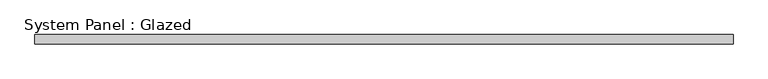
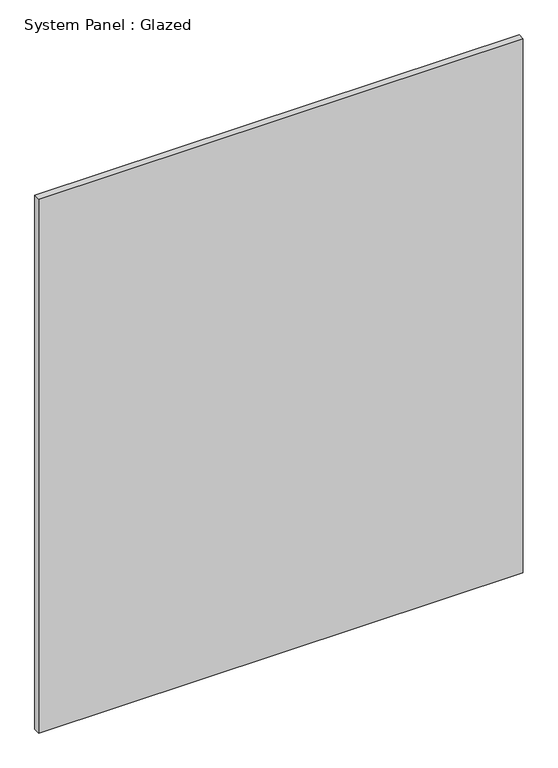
"""IFC4 building model written with IfcOpenShell, lengths in millimetres: plate geometry, System Panel : Glazed."""

from ifc_helpers import new_model, si_unit, origin, origin_with_axes, place, context, project, spatial, polyline, outline, extrude, source, transform, mapped, element, save


def system_panel_glazed_6c3e4c3c(model_context):
    return source(origin(), model_context, "Body", "SweptSolid", [
        extrude(outline(polyline([(955.0, -49.5), (-955.0, -49.5), (-955.0, -24.5), (955.0, -24.5), (955.0, -49.5)])), origin_with_axes(), (0.0, 0.0, 1.0), 2225.0),
    ])


if __name__ == "__main__":
    model = new_model("IFC4")
    model_context = context("Model", 3, world=origin())
    ifc_project = project(units=[si_unit("LENGTHUNIT", "METRE", prefix="MILLI")], contexts=[model_context])
    site = spatial("IfcSite", under=ifc_project)
    building = spatial("IfcBuilding", under=site)
    placement = place(None, origin())
    system_panel_glazed_shape = system_panel_glazed_6c3e4c3c(model_context)
    element("IfcPlate", 1, ObjectType="System Panel : Glazed", at=placement, inside=building, context=model_context, shape_type="MappedRepresentation", body=[
        mapped(system_panel_glazed_shape, transform((0.0, 0.0, 0.0), x_axis=(1.0, 0.0, 0.0), y_axis=(0.0, 1.0, 0.0), z_axis=(0.0, 0.0, 1.0))),
    ])
    save(model, "model.ifc")
